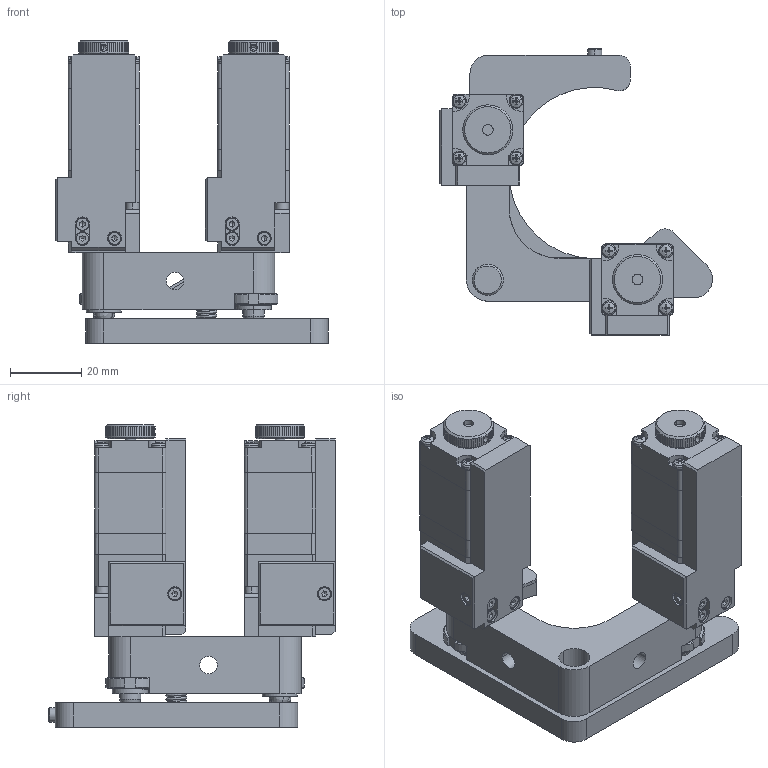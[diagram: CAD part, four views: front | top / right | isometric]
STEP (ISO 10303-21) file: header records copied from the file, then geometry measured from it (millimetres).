
FILE_DESCRIPTION (( 'STEP AP203' ), '1' );
FILE_NAME ('8MBM24-2-2.STEP', '2009-10-18T08:18:04', ( 'Darius' ), ( '' ), 'SwSTEP 2.0', 'SolidWorks 2003240', '' );
FILE_SCHEMA (( 'CONFIG_CONTROL_DESIGN' ));
Products named in the file (1): 8MBM24-2-2
Bounding box: 76.47 x 80.36 x 85 mm (x, y, z)
Volume: 85585.8 mm3; surface area: 30830.9 mm2
Topology: 1 solids, 47 shells, 1741 faces, 4604 edges, 2963 vertices
Faces by surface type: plane 854, cylinder 351, cone 282, bspline 254
Entity records: 60576 total; most frequent: CARTESIAN_POINT 20009, ORIENTED_EDGE 9028, DIRECTION 7439, EDGE_CURVE 4514, VERTEX_POINT 2965, AXIS2_PLACEMENT_3D 2647, VECTOR 2145, LINE 2145
